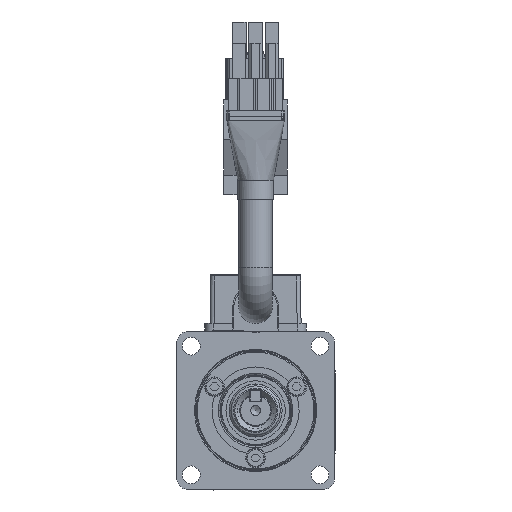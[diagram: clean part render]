
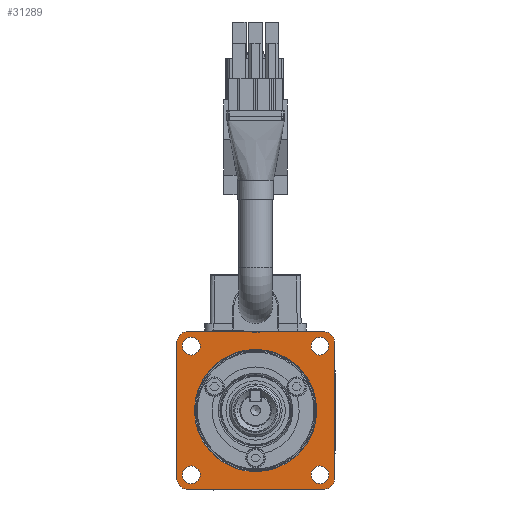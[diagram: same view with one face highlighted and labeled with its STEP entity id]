
A CAD part, left-side view. The second image highlights one B-rep face of the part: STEP entity #31289.
In plain terms, the highlighted planar face has unit normal (-1, 0, 0) as drawn and (0, -1, 0) by its records, which use the part's own axes.
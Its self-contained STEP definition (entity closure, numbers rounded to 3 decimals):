
#1959=CIRCLE('',#33476,2.25);
#1964=CIRCLE('',#33483,2.25);
#1970=CIRCLE('',#33494,2.25);
#1975=CIRCLE('',#33501,2.25);
#1988=CIRCLE('',#33540,3.);
#1989=CIRCLE('',#33542,3.);
#1990=CIRCLE('',#33544,3.);
#1991=CIRCLE('',#33546,3.);
#1992=CIRCLE('',#33548,15.45);
#3614=ORIENTED_EDGE('',*,*,#11922,.T.);
#3615=ORIENTED_EDGE('',*,*,#11920,.F.);
#3616=ORIENTED_EDGE('',*,*,#11897,.T.);
#3617=ORIENTED_EDGE('',*,*,#11919,.F.);
#3618=ORIENTED_EDGE('',*,*,#11906,.T.);
#3619=ORIENTED_EDGE('',*,*,#11918,.F.);
#3620=ORIENTED_EDGE('',*,*,#11915,.F.);
#3621=ORIENTED_EDGE('',*,*,#11921,.F.);
#3622=ORIENTED_EDGE('',*,*,#11875,.T.);
#3623=ORIENTED_EDGE('',*,*,#11855,.F.);
#3624=ORIENTED_EDGE('',*,*,#11838,.F.);
#3625=ORIENTED_EDGE('',*,*,#11845,.F.);
#3626=ORIENTED_EDGE('',*,*,#11862,.F.);
#11838=EDGE_CURVE('',#16119,#16119,#1959,.F.);
#11845=EDGE_CURVE('',#16125,#16125,#1964,.F.);
#11855=EDGE_CURVE('',#16133,#16133,#1970,.F.);
#11862=EDGE_CURVE('',#16139,#16139,#1975,.F.);
#11875=EDGE_CURVE('',#16146,#16145,#18952,.T.);
#11897=EDGE_CURVE('',#16160,#16159,#18966,.T.);
#11906=EDGE_CURVE('',#16162,#16161,#18975,.T.);
#11915=EDGE_CURVE('',#16163,#16164,#18984,.T.);
#11918=EDGE_CURVE('',#16164,#16161,#1988,.F.);
#11919=EDGE_CURVE('',#16162,#16159,#1989,.F.);
#11920=EDGE_CURVE('',#16160,#16145,#1990,.F.);
#11921=EDGE_CURVE('',#16146,#16163,#1991,.F.);
#11922=EDGE_CURVE('',#16165,#16165,#1992,.F.);
#16119=VERTEX_POINT('',#48588);
#16125=VERTEX_POINT('',#48603);
#16133=VERTEX_POINT('',#48624);
#16139=VERTEX_POINT('',#48639);
#16145=VERTEX_POINT('',#48662);
#16146=VERTEX_POINT('',#48664);
#16159=VERTEX_POINT('',#48703);
#16160=VERTEX_POINT('',#48705);
#16161=VERTEX_POINT('',#48720);
#16162=VERTEX_POINT('',#48722);
#16163=VERTEX_POINT('',#48738);
#16164=VERTEX_POINT('',#48740);
#16165=VERTEX_POINT('',#48755);
#18952=LINE('',#48663,#22038);
#18966=LINE('',#48704,#22052);
#18975=LINE('',#48721,#22061);
#18984=LINE('',#48739,#22070);
#22038=VECTOR('',#36928,1000.);
#22052=VECTOR('',#36968,1000.);
#22061=VECTOR('',#36989,1000.);
#22070=VECTOR('',#37012,1000.);
#25327=EDGE_LOOP('',(#3614));
#25328=EDGE_LOOP('',(#3615,#3616,#3617,#3618,#3619,#3620,#3621,#3622));
#25329=EDGE_LOOP('',(#3623));
#25330=EDGE_LOOP('',(#3624));
#25331=EDGE_LOOP('',(#3625));
#25332=EDGE_LOOP('',(#3626));
#27758=FACE_BOUND('',#25327,.T.);
#27759=FACE_BOUND('',#25328,.T.);
#27760=FACE_BOUND('',#25329,.T.);
#27761=FACE_BOUND('',#25330,.T.);
#27762=FACE_BOUND('',#25331,.T.);
#27763=FACE_BOUND('',#25332,.T.);
#29962=PLANE('',#33547);
#31289=ADVANCED_FACE('',(#27758,#27759,#27760,#27761,#27762,#27763),#29962,
 .T.);
#33476=AXIS2_PLACEMENT_3D('',#48587,#36844,#36845);
#33483=AXIS2_PLACEMENT_3D('',#48602,#36860,#36861);
#33494=AXIS2_PLACEMENT_3D('',#48623,#36884,#36885);
#33501=AXIS2_PLACEMENT_3D('',#48638,#36900,#36901);
#33540=AXIS2_PLACEMENT_3D('',#48746,#37021,#37022);
#33542=AXIS2_PLACEMENT_3D('',#48748,#37025,#37026);
#33544=AXIS2_PLACEMENT_3D('',#48750,#37029,#37030);
#33546=AXIS2_PLACEMENT_3D('',#48752,#37033,#37034);
#33547=AXIS2_PLACEMENT_3D('',#48753,#37035,#37036);
#33548=AXIS2_PLACEMENT_3D('',#48754,#37037,#37038);
#36844=DIRECTION('',(0.,1.,0.));
#36845=DIRECTION('',(0.,0.,1.));
#36860=DIRECTION('',(0.,1.,0.));
#36861=DIRECTION('',(0.,0.,1.));
#36884=DIRECTION('',(0.,1.,0.));
#36885=DIRECTION('',(0.,0.,1.));
#36900=DIRECTION('',(0.,1.,0.));
#36901=DIRECTION('',(0.,0.,1.));
#36928=DIRECTION('',(0.,0.,1.));
#36968=DIRECTION('',(-1.,0.,0.));
#36989=DIRECTION('',(0.,0.,-1.));
#37012=DIRECTION('',(-1.,0.,0.));
#37021=DIRECTION('',(0.,-1.,0.));
#37022=DIRECTION('',(0.,0.,-1.));
#37025=DIRECTION('',(0.,-1.,0.));
#37026=DIRECTION('',(0.,0.,-1.));
#37029=DIRECTION('',(0.,-1.,0.));
#37030=DIRECTION('',(0.,0.,-1.));
#37033=DIRECTION('',(0.,-1.,0.));
#37034=DIRECTION('',(0.,0.,-1.));
#37035=DIRECTION('',(0.,-1.,0.));
#37036=DIRECTION('',(0.,0.,-1.));
#37037=DIRECTION('',(0.,-1.,0.));
#37038=DIRECTION('',(0.,0.,-1.));
#48587=CARTESIAN_POINT('',(16.263,0.5,-16.263));
#48588=CARTESIAN_POINT('',(16.263,0.5,-14.013));
#48602=CARTESIAN_POINT('',(-16.263,0.5,-16.263));
#48603=CARTESIAN_POINT('',(-16.263,0.5,-14.013));
#48623=CARTESIAN_POINT('',(16.263,0.5,16.263));
#48624=CARTESIAN_POINT('',(16.263,0.5,18.513));
#48638=CARTESIAN_POINT('',(-16.263,0.5,16.263));
#48639=CARTESIAN_POINT('',(-16.263,0.5,18.513));
#48662=CARTESIAN_POINT('',(20.,0.5,17.));
#48663=CARTESIAN_POINT('',(20.,0.5,-20.));
#48664=CARTESIAN_POINT('',(20.,0.5,-17.));
#48703=CARTESIAN_POINT('',(-17.,0.5,20.));
#48704=CARTESIAN_POINT('',(20.,0.5,20.));
#48705=CARTESIAN_POINT('',(17.,0.5,20.));
#48720=CARTESIAN_POINT('',(-20.,0.5,-17.));
#48721=CARTESIAN_POINT('',(-20.,0.5,20.));
#48722=CARTESIAN_POINT('',(-20.,0.5,17.));
#48738=CARTESIAN_POINT('',(17.,0.5,-20.));
#48739=CARTESIAN_POINT('',(-20.,0.5,-20.));
#48740=CARTESIAN_POINT('',(-17.,0.5,-20.));
#48746=CARTESIAN_POINT('',(-17.,0.5,-17.));
#48748=CARTESIAN_POINT('',(-17.,0.5,17.));
#48750=CARTESIAN_POINT('',(17.,0.5,17.));
#48752=CARTESIAN_POINT('',(17.,0.5,-17.));
#48753=CARTESIAN_POINT('',(0.,0.5,15.5));
#48754=CARTESIAN_POINT('',(0.,0.5,0.));
#48755=CARTESIAN_POINT('',(0.,0.5,-15.45));
